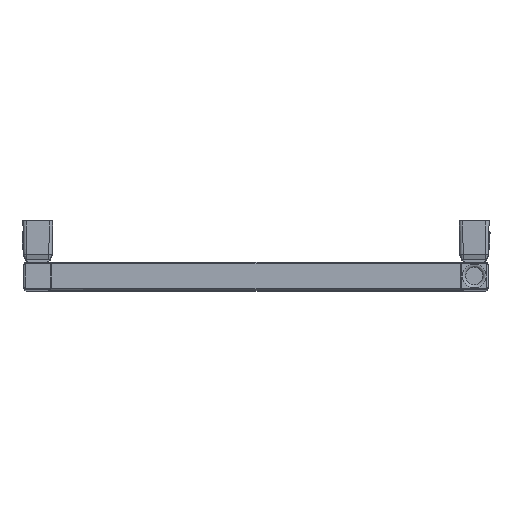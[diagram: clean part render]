
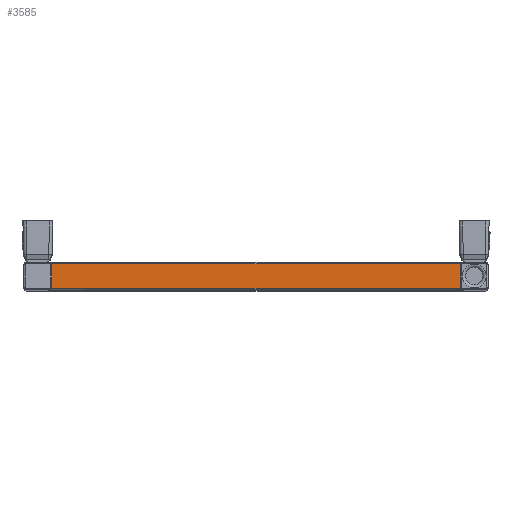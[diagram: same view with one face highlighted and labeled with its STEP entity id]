
A CAD part, top view. The second image highlights one B-rep face of the part: STEP entity #3585.
In plain terms, the highlighted planar face has unit normal (0, 0, 1).
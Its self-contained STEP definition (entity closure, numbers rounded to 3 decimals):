
#3510=CARTESIAN_POINT('',(0.0,-13.,675.0));
#3511=DIRECTION('',(0.0,0.0,1.0));
#3512=DIRECTION('',(1.0,0.0,0.0));
#3513=AXIS2_PLACEMENT_3D('',#3510,#3511,#3512);
#3514=PLANE('',#3513);
#3515=CARTESIAN_POINT('',(220.172,13.,675.0));
#3516=VERTEX_POINT('',#3515);
#3517=CARTESIAN_POINT('',(220.,12.,675.0));
#3518=VERTEX_POINT('',#3517);
#3519=CARTESIAN_POINT('',(223.,12.,675.0));
#3520=DIRECTION('',(0.0,0.0,1.0));
#3521=DIRECTION('',(0.0,1.0,0.0));
#3522=AXIS2_PLACEMENT_3D('',#3519,#3520,#3521);
#3523=CIRCLE('',#3522,3.);
#3524=EDGE_CURVE('',#3516,#3518,#3523,.T.);
#3525=ORIENTED_EDGE('',*,*,#3524,.F.);
#3526=CARTESIAN_POINT('',(-220.172,13.,675.0));
#3527=VERTEX_POINT('',#3526);
#3528=CARTESIAN_POINT('',(220.172,13.,675.0));
#3529=DIRECTION('',(-1.0,0.0,0.0));
#3530=VECTOR('',#3529,440.343);
#3531=LINE('',#3528,#3530);
#3532=EDGE_CURVE('',#3516,#3527,#3531,.T.);
#3533=ORIENTED_EDGE('',*,*,#3532,.T.);
#3534=CARTESIAN_POINT('',(-220.,12.,675.0));
#3535=VERTEX_POINT('',#3534);
#3536=CARTESIAN_POINT('',(-223.,12.,675.0));
#3537=DIRECTION('',(0.0,0.0,1.0));
#3538=DIRECTION('',(1.0,0.0,0.0));
#3539=AXIS2_PLACEMENT_3D('',#3536,#3537,#3538);
#3540=CIRCLE('',#3539,3.);
#3541=EDGE_CURVE('',#3535,#3527,#3540,.T.);
#3542=ORIENTED_EDGE('',*,*,#3541,.F.);
#3543=CARTESIAN_POINT('',(-220.,-12.,675.0));
#3544=VERTEX_POINT('',#3543);
#3545=CARTESIAN_POINT('',(-220.,-12.,675.0));
#3546=DIRECTION('',(0.0,1.0,0.0));
#3547=VECTOR('',#3546,24.);
#3548=LINE('',#3545,#3547);
#3549=EDGE_CURVE('',#3544,#3535,#3548,.T.);
#3550=ORIENTED_EDGE('',*,*,#3549,.F.);
#3551=CARTESIAN_POINT('',(-220.172,-13.,675.0));
#3552=VERTEX_POINT('',#3551);
#3553=CARTESIAN_POINT('',(-223.,-12.,675.0));
#3554=DIRECTION('',(0.0,0.0,1.0));
#3555=DIRECTION('',(0.0,-1.0,0.0));
#3556=AXIS2_PLACEMENT_3D('',#3553,#3554,#3555);
#3557=CIRCLE('',#3556,3.0);
#3558=EDGE_CURVE('',#3552,#3544,#3557,.T.);
#3559=ORIENTED_EDGE('',*,*,#3558,.F.);
#3560=CARTESIAN_POINT('',(220.172,-13.,675.0));
#3561=VERTEX_POINT('',#3560);
#3562=CARTESIAN_POINT('',(220.172,-13.,675.0));
#3563=DIRECTION('',(-1.0,0.0,0.0));
#3564=VECTOR('',#3563,440.343);
#3565=LINE('',#3562,#3564);
#3566=EDGE_CURVE('',#3561,#3552,#3565,.T.);
#3567=ORIENTED_EDGE('',*,*,#3566,.F.);
#3568=CARTESIAN_POINT('',(220.,-12.,675.0));
#3569=VERTEX_POINT('',#3568);
#3570=CARTESIAN_POINT('',(223.,-12.,675.0));
#3571=DIRECTION('',(0.0,0.0,1.0));
#3572=DIRECTION('',(-1.0,0.0,0.0));
#3573=AXIS2_PLACEMENT_3D('',#3570,#3571,#3572);
#3574=CIRCLE('',#3573,3.0);
#3575=EDGE_CURVE('',#3569,#3561,#3574,.T.);
#3576=ORIENTED_EDGE('',*,*,#3575,.F.);
#3577=CARTESIAN_POINT('',(220.,12.,675.0));
#3578=DIRECTION('',(0.0,-1.0,0.0));
#3579=VECTOR('',#3578,24.);
#3580=LINE('',#3577,#3579);
#3581=EDGE_CURVE('',#3518,#3569,#3580,.T.);
#3582=ORIENTED_EDGE('',*,*,#3581,.F.);
#3583=EDGE_LOOP('',(#3525,#3533,#3542,#3550,#3559,#3567,#3576,#3582));
#3584=FACE_OUTER_BOUND('',#3583,.T.);
#3585=ADVANCED_FACE('',(#3584),#3514,.T.);
